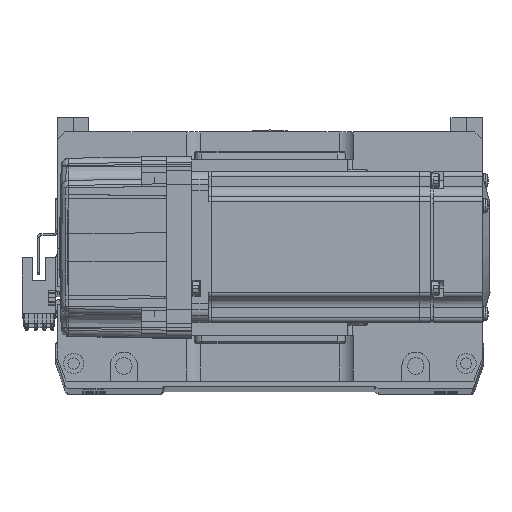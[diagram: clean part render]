
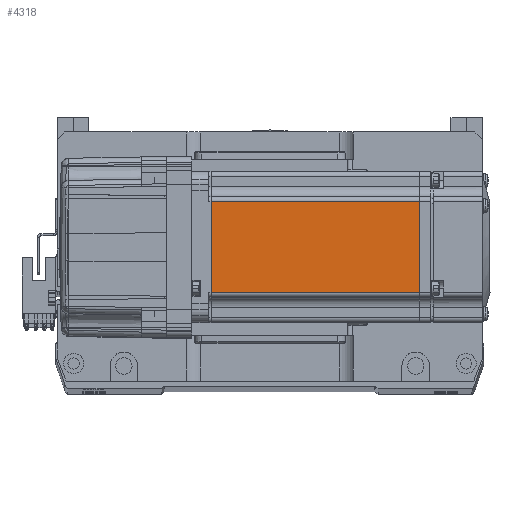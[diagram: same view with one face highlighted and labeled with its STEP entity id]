
A CAD part, top view. The second image highlights one B-rep face of the part: STEP entity #4318.
In plain terms, the highlighted planar face has unit normal (0, 0, 1) as drawn and (0, -1, 0) by its records, which use the part's own axes.
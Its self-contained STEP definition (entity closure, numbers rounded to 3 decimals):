
#117 = LINE ( 'NONE', #19957, #37081 ) ;
#1120 = LINE ( 'NONE', #24785, #48184 ) ;
#2970 = DIRECTION ( 'NONE',  ( 0., 0., -1. ) ) ;
#4318 = ADVANCED_FACE ( 'NONE', ( #24370 ), #63713, .T. ) ;
#5107 = DIRECTION ( 'NONE',  ( 0., 0., 1. ) ) ;
#5356 = CARTESIAN_POINT ( 'NONE',  ( -7.75, -30., -18. ) ) ;
#8131 = VERTEX_POINT ( 'NONE', #58540 ) ;
#8355 = CARTESIAN_POINT ( 'NONE',  ( -90.45, -30., -25. ) ) ;
#13299 = DIRECTION ( 'NONE',  ( 1., 0., 0. ) ) ;
#14062 = DIRECTION ( 'NONE',  ( 0., 0., -1. ) ) ;
#19957 = CARTESIAN_POINT ( 'NONE',  ( -6.5, -30., -18. ) ) ;
#21121 = ORIENTED_EDGE ( 'NONE', *, *, #60551, .T. ) ;
#21582 = CARTESIAN_POINT ( 'NONE',  ( -6.5, -30., 18. ) ) ;
#22147 = VECTOR ( 'NONE', #2970, 1000. ) ;
#23236 = EDGE_CURVE ( 'NONE', #46945, #41805, #1120, .T. ) ;
#24370 = FACE_OUTER_BOUND ( 'NONE', #37317, .T. ) ;
#24785 = CARTESIAN_POINT ( 'NONE',  ( -7.75, -30., -25. ) ) ;
#26783 = LINE ( 'NONE', #8355, #22147 ) ;
#28512 = EDGE_CURVE ( 'NONE', #8131, #46945, #117, .T. ) ;
#29521 = ORIENTED_EDGE ( 'NONE', *, *, #43830, .T. ) ;
#33099 = CARTESIAN_POINT ( 'NONE',  ( -90.45, -30., 18. ) ) ;
#37081 = VECTOR ( 'NONE', #13299, 1000. ) ;
#37317 = EDGE_LOOP ( 'NONE', ( #41092, #21121, #29521, #55822 ) ) ;
#40901 = DIRECTION ( 'NONE',  ( -1., 0., 0. ) ) ;
#41092 = ORIENTED_EDGE ( 'NONE', *, *, #23236, .T. ) ;
#41805 = VERTEX_POINT ( 'NONE', #62605 ) ;
#43830 = EDGE_CURVE ( 'NONE', #46783, #8131, #26783, .T. ) ;
#44518 = VECTOR ( 'NONE', #40901, 1000. ) ;
#46783 = VERTEX_POINT ( 'NONE', #33099 ) ;
#46945 = VERTEX_POINT ( 'NONE', #5356 ) ;
#48184 = VECTOR ( 'NONE', #5107, 1000. ) ;
#53657 = CARTESIAN_POINT ( 'NONE',  ( -6.5, -30., -25. ) ) ;
#55822 = ORIENTED_EDGE ( 'NONE', *, *, #28512, .T. ) ;
#56975 = AXIS2_PLACEMENT_3D ( 'NONE', #53657, #58155, #14062 ) ;
#58155 = DIRECTION ( 'NONE',  ( 0., -1., 0. ) ) ;
#58540 = CARTESIAN_POINT ( 'NONE',  ( -90.45, -30., -18. ) ) ;
#59135 = LINE ( 'NONE', #21582, #44518 ) ;
#60551 = EDGE_CURVE ( 'NONE', #41805, #46783, #59135, .T. ) ;
#62605 = CARTESIAN_POINT ( 'NONE',  ( -7.75, -30., 18. ) ) ;
#63713 = PLANE ( 'NONE',  #56975 ) ;
